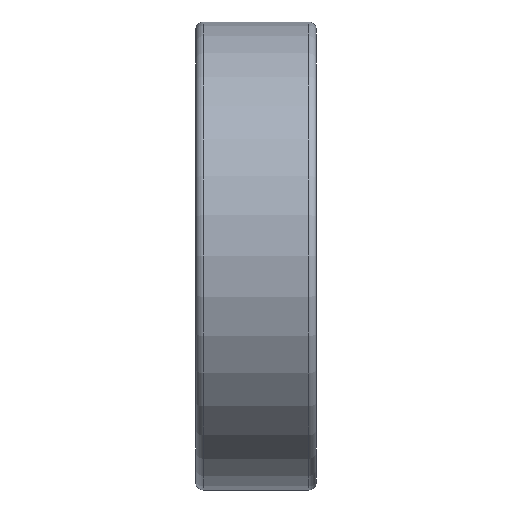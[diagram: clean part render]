
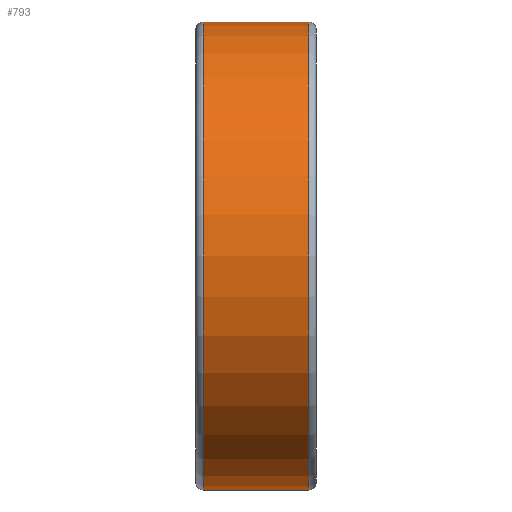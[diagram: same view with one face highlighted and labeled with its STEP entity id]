
A CAD part, front view. The second image highlights one B-rep face of the part: STEP entity #793.
In plain terms, the highlighted cylindrical face has radius 31 mm (diameter 62 mm), a full revolution.
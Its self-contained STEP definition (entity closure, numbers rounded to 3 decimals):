
#44=LINE('',#1526,#50);
#50=VECTOR('',#1245,31.);
#56=CYLINDRICAL_SURFACE('',#962,31.);
#132=FACE_OUTER_BOUND('',#195,.T.);
#195=EDGE_LOOP('',(#708,#709,#710,#711,#712,#713));
#296=CIRCLE('',#957,31.);
#297=CIRCLE('',#958,31.);
#300=CIRCLE('',#963,31.);
#301=CIRCLE('',#964,31.);
#415=VERTEX_POINT('',#1514);
#416=VERTEX_POINT('',#1515);
#418=VERTEX_POINT('',#1523);
#419=VERTEX_POINT('',#1524);
#516=EDGE_CURVE('',#415,#416,#296,.T.);
#517=EDGE_CURVE('',#416,#415,#297,.T.);
#520=EDGE_CURVE('',#418,#419,#300,.T.);
#521=EDGE_CURVE('',#418,#416,#44,.T.);
#522=EDGE_CURVE('',#419,#418,#301,.T.);
#708=ORIENTED_EDGE('',*,*,#520,.F.);
#709=ORIENTED_EDGE('',*,*,#521,.T.);
#710=ORIENTED_EDGE('',*,*,#516,.F.);
#711=ORIENTED_EDGE('',*,*,#517,.F.);
#712=ORIENTED_EDGE('',*,*,#521,.F.);
#713=ORIENTED_EDGE('',*,*,#522,.F.);
#793=ADVANCED_FACE('',(#132),#56,.T.);
#957=AXIS2_PLACEMENT_3D('',#1516,#1231,#1232);
#958=AXIS2_PLACEMENT_3D('',#1517,#1233,#1234);
#962=AXIS2_PLACEMENT_3D('',#1522,#1241,#1242);
#963=AXIS2_PLACEMENT_3D('',#1525,#1243,#1244);
#964=AXIS2_PLACEMENT_3D('',#1527,#1246,#1247);
#1231=DIRECTION('center_axis',(-1.,0.,0.));
#1232=DIRECTION('ref_axis',(0.,-1.,0.));
#1233=DIRECTION('center_axis',(-1.,0.,0.));
#1234=DIRECTION('ref_axis',(0.,-1.,0.));
#1241=DIRECTION('center_axis',(1.,0.,0.));
#1242=DIRECTION('ref_axis',(0.,1.,0.));
#1243=DIRECTION('center_axis',(1.,0.,0.));
#1244=DIRECTION('ref_axis',(0.,-1.,0.));
#1245=DIRECTION('',(-1.,0.,0.));
#1246=DIRECTION('center_axis',(1.,0.,0.));
#1247=DIRECTION('ref_axis',(0.,-1.,0.));
#1514=CARTESIAN_POINT('',(1.,0.,31.));
#1515=CARTESIAN_POINT('',(1.,-31.,0.));
#1516=CARTESIAN_POINT('Origin',(1.,0.,0.));
#1517=CARTESIAN_POINT('Origin',(1.,0.,0.));
#1522=CARTESIAN_POINT('Origin',(8.,0.,0.));
#1523=CARTESIAN_POINT('',(15.,-31.,0.));
#1524=CARTESIAN_POINT('',(15.,0.,31.));
#1525=CARTESIAN_POINT('Origin',(15.,0.,0.));
#1526=CARTESIAN_POINT('',(8.,-31.,0.));
#1527=CARTESIAN_POINT('Origin',(15.,0.,0.));
